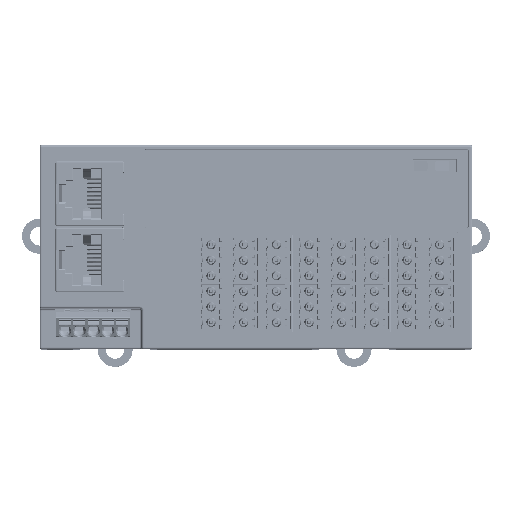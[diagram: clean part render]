
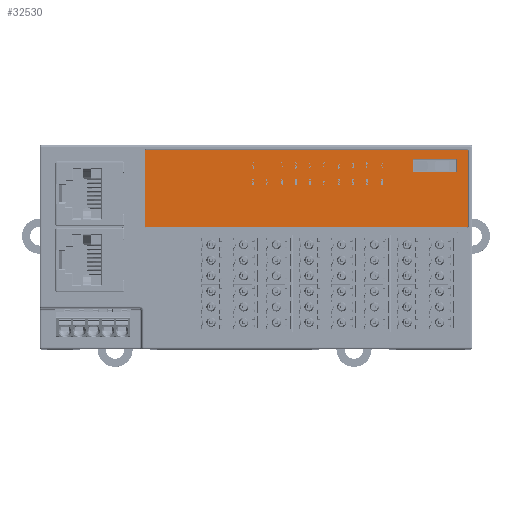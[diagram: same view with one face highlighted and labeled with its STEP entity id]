
A CAD part, top view. The second image highlights one B-rep face of the part: STEP entity #32530.
In plain terms, the highlighted planar face has unit normal (0, 0, 1).
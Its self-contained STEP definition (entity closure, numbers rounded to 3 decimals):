
#32302=CARTESIAN_POINT('',(-63.1,1.42,24.03));
#32303=VERTEX_POINT('',#32302);
#32304=CARTESIAN_POINT('',(-63.1,19.93,24.03));
#32305=VERTEX_POINT('',#32304);
#32306=CARTESIAN_POINT('',(-63.1,1.42,24.03));
#32307=DIRECTION('',(0.,1.,0.));
#32308=VECTOR('',#32307,18.51);
#32309=LINE('',#32306,#32308);
#32310=EDGE_CURVE('',#32303,#32305,#32309,.T.);
#32352=CARTESIAN_POINT('',(15.7,1.22,24.03));
#32353=VERTEX_POINT('',#32352);
#32360=CARTESIAN_POINT('',(-62.9,1.22,24.03));
#32361=VERTEX_POINT('',#32360);
#32362=CARTESIAN_POINT('',(15.7,1.22,24.03));
#32363=DIRECTION('',(-1.,0.,0.));
#32364=VECTOR('',#32363,78.6);
#32365=LINE('',#32362,#32364);
#32366=EDGE_CURVE('',#32353,#32361,#32365,.T.);
#32382=CARTESIAN_POINT('',(-62.9,20.13,24.03));
#32383=VERTEX_POINT('',#32382);
#32384=CARTESIAN_POINT('',(15.7,20.13,24.03));
#32385=VERTEX_POINT('',#32384);
#32386=CARTESIAN_POINT('',(-62.9,20.13,24.03));
#32387=DIRECTION('',(1.,0.,0.));
#32388=VECTOR('',#32387,78.6);
#32389=LINE('',#32386,#32388);
#32390=EDGE_CURVE('',#32383,#32385,#32389,.T.);
#32432=CARTESIAN_POINT('',(15.9,19.93,24.03));
#32433=VERTEX_POINT('',#32432);
#32440=CARTESIAN_POINT('',(15.9,1.42,24.03));
#32441=VERTEX_POINT('',#32440);
#32442=CARTESIAN_POINT('',(15.9,19.93,24.03));
#32443=DIRECTION('',(0.,-1.,0.));
#32444=VECTOR('',#32443,18.51);
#32445=LINE('',#32442,#32444);
#32446=EDGE_CURVE('',#32433,#32441,#32445,.T.);
#32457=CARTESIAN_POINT('',(-23.6,10.675,24.03));
#32458=DIRECTION('',(1.,0.,0.));
#32459=DIRECTION('',(0.,0.,1.));
#32460=AXIS2_PLACEMENT_3D('',#32457,#32459,#32458);
#32461=PLANE('',#32460);
#32462=ORIENTED_EDGE('',*,*,#32310,.F.);
#32463=CARTESIAN_POINT('',(-62.9,1.42,24.03));
#32464=DIRECTION('',(-1.,0.,0.));
#32465=DIRECTION('',(0.,0.,1.));
#32466=AXIS2_PLACEMENT_3D('',#32463,#32465,#32464);
#32467=CIRCLE('',#32466,0.2);
#32468=EDGE_CURVE('',#32303,#32361,#32467,.T.);
#32469=ORIENTED_EDGE('',*,*,#32468,.T.);
#32470=ORIENTED_EDGE('',*,*,#32366,.F.);
#32471=CARTESIAN_POINT('',(15.7,1.42,24.03));
#32472=DIRECTION('',(0.,-1.,0.));
#32473=DIRECTION('',(0.,0.,1.));
#32474=AXIS2_PLACEMENT_3D('',#32471,#32473,#32472);
#32475=CIRCLE('',#32474,0.2);
#32476=EDGE_CURVE('',#32353,#32441,#32475,.T.);
#32477=ORIENTED_EDGE('',*,*,#32476,.T.);
#32478=ORIENTED_EDGE('',*,*,#32446,.F.);
#32479=CARTESIAN_POINT('',(15.7,19.93,24.03));
#32480=DIRECTION('',(1.,0.,0.));
#32481=DIRECTION('',(0.,0.,1.));
#32482=AXIS2_PLACEMENT_3D('',#32479,#32481,#32480);
#32483=CIRCLE('',#32482,0.2);
#32484=EDGE_CURVE('',#32433,#32385,#32483,.T.);
#32485=ORIENTED_EDGE('',*,*,#32484,.T.);
#32486=ORIENTED_EDGE('',*,*,#32390,.F.);
#32487=CARTESIAN_POINT('',(-62.9,19.93,24.03));
#32488=DIRECTION('',(0.,1.,0.));
#32489=DIRECTION('',(0.,0.,1.));
#32490=AXIS2_PLACEMENT_3D('',#32487,#32489,#32488);
#32491=CIRCLE('',#32490,0.2);
#32492=EDGE_CURVE('',#32383,#32305,#32491,.T.);
#32493=ORIENTED_EDGE('',*,*,#32492,.T.);
#32494=EDGE_LOOP('',(#32462,#32469,#32470,#32477,#32478,#32485,#32486,#32493));
#32495=FACE_OUTER_BOUND('',#32494,.T.);
#32496=CARTESIAN_POINT('',(2.403,17.797,24.03));
#32497=VERTEX_POINT('',#32496);
#32498=CARTESIAN_POINT('',(13.097,17.797,24.03));
#32499=VERTEX_POINT('',#32498);
#32500=CARTESIAN_POINT('',(2.403,17.797,24.03));
#32501=DIRECTION('',(1.,0.,0.));
#32502=VECTOR('',#32501,10.694);
#32503=LINE('',#32500,#32502);
#32504=EDGE_CURVE('',#32497,#32499,#32503,.T.);
#32505=ORIENTED_EDGE('',*,*,#32504,.T.);
#32506=CARTESIAN_POINT('',(13.097,14.603,24.03));
#32507=VERTEX_POINT('',#32506);
#32508=CARTESIAN_POINT('',(13.097,17.797,24.03));
#32509=DIRECTION('',(0.,-1.,0.));
#32510=VECTOR('',#32509,3.194);
#32511=LINE('',#32508,#32510);
#32512=EDGE_CURVE('',#32499,#32507,#32511,.T.);
#32513=ORIENTED_EDGE('',*,*,#32512,.T.);
#32514=CARTESIAN_POINT('',(2.403,14.603,24.03));
#32515=VERTEX_POINT('',#32514);
#32516=CARTESIAN_POINT('',(13.097,14.603,24.03));
#32517=DIRECTION('',(-1.,0.,0.));
#32518=VECTOR('',#32517,10.694);
#32519=LINE('',#32516,#32518);
#32520=EDGE_CURVE('',#32507,#32515,#32519,.T.);
#32521=ORIENTED_EDGE('',*,*,#32520,.T.);
#32522=CARTESIAN_POINT('',(2.403,14.603,24.03));
#32523=DIRECTION('',(0.,1.,0.));
#32524=VECTOR('',#32523,3.194);
#32525=LINE('',#32522,#32524);
#32526=EDGE_CURVE('',#32515,#32497,#32525,.T.);
#32527=ORIENTED_EDGE('',*,*,#32526,.T.);
#32528=EDGE_LOOP('',(#32505,#32513,#32521,#32527));
#32529=FACE_BOUND('',#32528,.T.);
#32530=ADVANCED_FACE('',(#32495,#32529),#32461,.T.);
